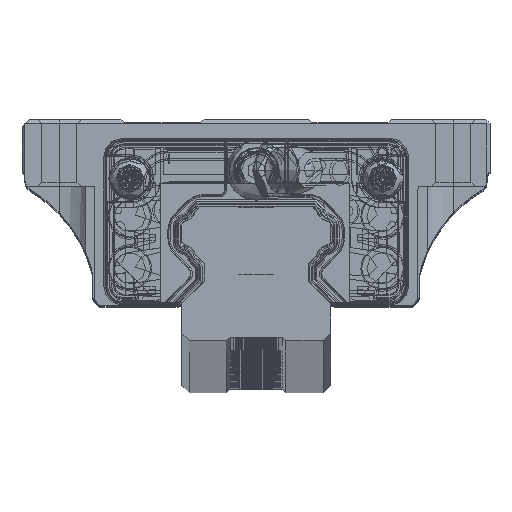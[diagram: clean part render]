
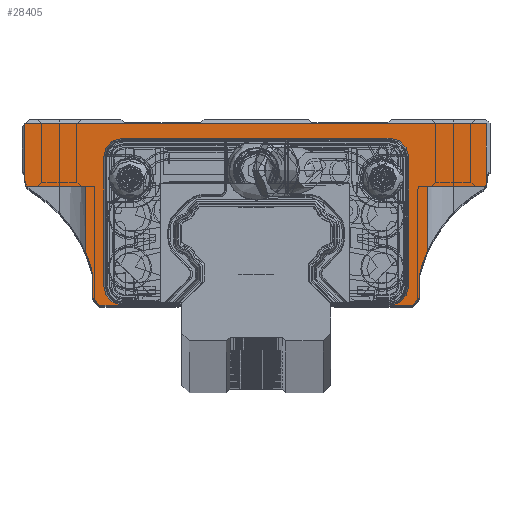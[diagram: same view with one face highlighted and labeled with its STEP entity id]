
A CAD part, top view. The second image highlights one B-rep face of the part: STEP entity #28405.
In plain terms, the highlighted planar face has unit normal (0, 0, 1).
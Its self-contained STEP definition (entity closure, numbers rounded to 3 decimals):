
#14114=DIRECTION('',(0.,-1.,0.));
#14115=VECTOR('',#14114,0.8);
#14116=CARTESIAN_POINT('',(-31.1,8.1,24.4));
#14117=LINE('',#14116,#14115);
#14134=CARTESIAN_POINT('',(18.,10.45,24.4));
#14135=DIRECTION('',(0.,0.,1.));
#14136=DIRECTION('',(1.,0.,0.));
#14137=AXIS2_PLACEMENT_3D('',#14134,#14135,#14136);
#14139=CARTESIAN_POINT('',(-18.,10.45,24.4));
#14140=DIRECTION('',(0.,0.,1.));
#14141=DIRECTION('',(0.,1.,0.));
#14142=AXIS2_PLACEMENT_3D('',#14139,#14140,#14141);
#14144=CARTESIAN_POINT('',(-18.,-7.,24.4));
#14145=DIRECTION('',(0.,0.,1.));
#14146=DIRECTION('',(-1.,0.,0.));
#14147=AXIS2_PLACEMENT_3D('',#14144,#14145,#14146);
#14149=DIRECTION('',(-1.,0.,0.));
#14150=VECTOR('',#14149,3.025);
#14151=CARTESIAN_POINT('',(-18.,-9.5,24.4));
#14152=LINE('',#14151,#14150);
#14153=DIRECTION('',(-0.707,0.707,0.));
#14154=VECTOR('',#14153,1.414);
#14155=CARTESIAN_POINT('',(-21.025,-9.5,24.4));
#14156=LINE('',#14155,#14154);
#14157=DIRECTION('',(0.,1.,0.));
#14158=VECTOR('',#14157,3.316);
#14159=CARTESIAN_POINT('',(-22.025,-8.5,24.4));
#14160=LINE('',#14159,#14158);
#14161=CARTESIAN_POINT('',(-39.5,-9.5,24.4));
#14162=DIRECTION('',(0.,0.,1.));
#14163=DIRECTION('',(0.971,0.24,0.));
#14164=AXIS2_PLACEMENT_3D('',#14161,#14162,#14163);
#14166=DIRECTION('',(0.,1.,0.));
#14167=VECTOR('',#14166,8.806);
#14168=CARTESIAN_POINT('',(-23.,-2.306,24.4));
#14169=LINE('',#14168,#14167);
#14170=DIRECTION('',(-1.,0.,0.));
#14171=VECTOR('',#14170,7.869);
#14172=CARTESIAN_POINT('',(-23.,6.5,24.4));
#14173=LINE('',#14172,#14171);
#14174=CARTESIAN_POINT('',(-29.6,7.3,24.4));
#14175=DIRECTION('',(0.,0.,-1.));
#14176=DIRECTION('',(-0.846,-0.533,0.));
#14177=AXIS2_PLACEMENT_3D('',#14174,#14175,#14176);
#14179=DIRECTION('',(-0.707,0.707,0.));
#14180=VECTOR('',#14179,0.141);
#14181=CARTESIAN_POINT('',(-31.1,8.1,24.4));
#14182=LINE('',#14181,#14180);
#14183=DIRECTION('',(0.,1.,0.));
#14184=VECTOR('',#14183,6.6);
#14185=CARTESIAN_POINT('',(-31.2,8.2,24.4));
#14186=LINE('',#14185,#14184);
#14187=DIRECTION('',(0.707,0.707,0.));
#14188=VECTOR('',#14187,0.141);
#14189=CARTESIAN_POINT('',(-31.2,14.8,24.4));
#14190=LINE('',#14189,#14188);
#14191=DIRECTION('',(1.,0.,0.));
#14192=VECTOR('',#14191,62.05);
#14193=CARTESIAN_POINT('',(-31.1,14.9,24.4));
#14194=LINE('',#14193,#14192);
#14195=DIRECTION('',(0.,-1.,0.));
#14196=VECTOR('',#14195,8.168);
#14197=CARTESIAN_POINT('',(30.95,14.9,24.4));
#14198=LINE('',#14197,#14196);
#14199=CARTESIAN_POINT('',(29.55,7.27,24.4));
#14200=DIRECTION('',(0.,0.,-1.));
#14201=DIRECTION('',(0.933,-0.359,0.));
#14202=AXIS2_PLACEMENT_3D('',#14199,#14200,#14201);
#14204=DIRECTION('',(-1.,0.,0.));
#14205=VECTOR('',#14204,7.837);
#14206=CARTESIAN_POINT('',(30.837,6.5,24.4));
#14207=LINE('',#14206,#14205);
#14208=DIRECTION('',(0.,-1.,0.));
#14209=VECTOR('',#14208,8.806);
#14210=CARTESIAN_POINT('',(23.,6.5,24.4));
#14211=LINE('',#14210,#14209);
#14212=CARTESIAN_POINT('',(39.5,-9.5,24.4));
#14213=DIRECTION('',(0.,0.,1.));
#14214=DIRECTION('',(-0.917,0.4,0.));
#14215=AXIS2_PLACEMENT_3D('',#14212,#14213,#14214);
#14217=DIRECTION('',(0.,-1.,0.));
#14218=VECTOR('',#14217,3.316);
#14219=CARTESIAN_POINT('',(22.025,-5.184,24.4));
#14220=LINE('',#14219,#14218);
#14221=DIRECTION('',(-0.707,-0.707,0.));
#14222=VECTOR('',#14221,1.414);
#14223=CARTESIAN_POINT('',(22.025,-8.5,24.4));
#14224=LINE('',#14223,#14222);
#14225=DIRECTION('',(-1.,0.,0.));
#14226=VECTOR('',#14225,3.025);
#14227=CARTESIAN_POINT('',(21.025,-9.5,24.4));
#14228=LINE('',#14227,#14226);
#14229=CARTESIAN_POINT('',(18.,-7.,24.4));
#14230=DIRECTION('',(0.,0.,1.));
#14231=DIRECTION('',(0.,-1.,0.));
#14232=AXIS2_PLACEMENT_3D('',#14229,#14230,#14231);
#14234=DIRECTION('',(0.,1.,0.));
#14235=VECTOR('',#14234,17.45);
#14236=CARTESIAN_POINT('',(20.5,-7.,24.4));
#14237=LINE('',#14236,#14235);
#14258=DIRECTION('',(1.,0.,0.));
#14259=VECTOR('',#14258,36.);
#14260=CARTESIAN_POINT('',(-18.,12.95,24.4));
#14261=LINE('',#14260,#14259);
#14270=DIRECTION('',(0.,1.,0.));
#14271=VECTOR('',#14270,17.45);
#14272=CARTESIAN_POINT('',(-20.5,-7.,24.4));
#14273=LINE('',#14272,#14271);
#23248=CARTESIAN_POINT('',(-21.025,-9.5,24.4));
#23249=VERTEX_POINT('',#23248);
#23250=CARTESIAN_POINT('',(-18.,-9.5,24.4));
#23251=VERTEX_POINT('',#23250);
#23254=CARTESIAN_POINT('',(-22.025,-8.5,24.4));
#23256=VERTEX_POINT('',#23254);
#23263=CARTESIAN_POINT('',(-22.025,-5.184,24.4));
#23265=VERTEX_POINT('',#23263);
#23268=CARTESIAN_POINT('',(-23.,-2.306,24.4));
#23269=VERTEX_POINT('',#23268);
#23301=CARTESIAN_POINT('',(-31.1,7.3,24.4));
#23302=VERTEX_POINT('',#23301);
#23303=CARTESIAN_POINT('',(-30.869,6.5,24.4));
#23304=VERTEX_POINT('',#23303);
#23305=CARTESIAN_POINT('',(-31.1,8.1,24.4));
#23306=VERTEX_POINT('',#23305);
#23308=CARTESIAN_POINT('',(-31.2,8.2,24.4));
#23310=VERTEX_POINT('',#23308);
#23313=CARTESIAN_POINT('',(-31.2,14.8,24.4));
#23314=VERTEX_POINT('',#23313);
#23317=CARTESIAN_POINT('',(20.5,10.45,24.4));
#23318=CARTESIAN_POINT('',(18.,12.95,24.4));
#23319=VERTEX_POINT('',#23317);
#23320=VERTEX_POINT('',#23318);
#23321=CARTESIAN_POINT('',(-18.,12.95,24.4));
#23322=VERTEX_POINT('',#23321);
#23323=CARTESIAN_POINT('',(-20.5,10.45,24.4));
#23324=VERTEX_POINT('',#23323);
#23325=CARTESIAN_POINT('',(-20.5,-7.,24.4));
#23326=VERTEX_POINT('',#23325);
#23327=CARTESIAN_POINT('',(-23.,6.5,24.4));
#23328=VERTEX_POINT('',#23327);
#23329=CARTESIAN_POINT('',(-31.1,14.9,24.4));
#23330=VERTEX_POINT('',#23329);
#23331=CARTESIAN_POINT('',(30.95,14.9,24.4));
#23332=VERTEX_POINT('',#23331);
#23333=CARTESIAN_POINT('',(30.95,6.732,24.4));
#23334=VERTEX_POINT('',#23333);
#23335=CARTESIAN_POINT('',(30.837,6.5,24.4));
#23336=VERTEX_POINT('',#23335);
#23337=CARTESIAN_POINT('',(23.,6.5,24.4));
#23338=VERTEX_POINT('',#23337);
#23339=CARTESIAN_POINT('',(23.,-2.306,24.4));
#23340=VERTEX_POINT('',#23339);
#23341=CARTESIAN_POINT('',(22.025,-5.184,24.4));
#23342=VERTEX_POINT('',#23341);
#23343=CARTESIAN_POINT('',(22.025,-8.5,24.4));
#23344=VERTEX_POINT('',#23343);
#23345=CARTESIAN_POINT('',(21.025,-9.5,24.4));
#23346=VERTEX_POINT('',#23345);
#23347=CARTESIAN_POINT('',(18.,-9.5,24.4));
#23348=VERTEX_POINT('',#23347);
#23349=CARTESIAN_POINT('',(20.5,-7.,24.4));
#23350=VERTEX_POINT('',#23349);
#28353=CARTESIAN_POINT('',(0.,0.,24.4));
#28354=DIRECTION('',(0.,0.,1.));
#28355=DIRECTION('',(1.,0.,0.));
#28356=AXIS2_PLACEMENT_3D('',#28353,#28354,#28355);
#28357=PLANE('',#28356);
#28359=ORIENTED_EDGE('',*,*,#28358,.T.);
#28361=ORIENTED_EDGE('',*,*,#28360,.F.);
#28363=ORIENTED_EDGE('',*,*,#28362,.T.);
#28365=ORIENTED_EDGE('',*,*,#28364,.F.);
#28367=ORIENTED_EDGE('',*,*,#28366,.T.);
#28368=ORIENTED_EDGE('',*,*,#28077,.T.);
#28369=ORIENTED_EDGE('',*,*,#28093,.T.);
#28370=ORIENTED_EDGE('',*,*,#28115,.T.);
#28371=ORIENTED_EDGE('',*,*,#28133,.T.);
#28373=ORIENTED_EDGE('',*,*,#28372,.T.);
#28375=ORIENTED_EDGE('',*,*,#28374,.T.);
#28376=ORIENTED_EDGE('',*,*,#28295,.T.);
#28377=ORIENTED_EDGE('',*,*,#28313,.F.);
#28378=ORIENTED_EDGE('',*,*,#28327,.T.);
#28379=ORIENTED_EDGE('',*,*,#28343,.T.);
#28381=ORIENTED_EDGE('',*,*,#28380,.T.);
#28383=ORIENTED_EDGE('',*,*,#28382,.T.);
#28385=ORIENTED_EDGE('',*,*,#28384,.T.);
#28387=ORIENTED_EDGE('',*,*,#28386,.T.);
#28389=ORIENTED_EDGE('',*,*,#28388,.T.);
#28391=ORIENTED_EDGE('',*,*,#28390,.T.);
#28393=ORIENTED_EDGE('',*,*,#28392,.T.);
#28395=ORIENTED_EDGE('',*,*,#28394,.T.);
#28397=ORIENTED_EDGE('',*,*,#28396,.T.);
#28398=ORIENTED_EDGE('',*,*,#27927,.T.);
#28400=ORIENTED_EDGE('',*,*,#28399,.T.);
#28402=ORIENTED_EDGE('',*,*,#28401,.T.);
#28403=EDGE_LOOP('',(#28359,#28361,#28363,#28365,#28367,#28368,#28369,#28370,
#28371,#28373,#28375,#28376,#28377,#28378,#28379,#28381,#28383,#28385,#28387,
#28389,#28391,#28393,#28395,#28397,#28398,#28400,#28402));
#28404=FACE_OUTER_BOUND('',#28403,.F.);
#14138=CIRCLE('',#14137,2.5);
#14143=CIRCLE('',#14142,2.5);
#14148=CIRCLE('',#14147,2.5);
#14165=CIRCLE('',#14164,18.);
#14178=CIRCLE('',#14177,1.5);
#14203=CIRCLE('',#14202,1.5);
#14216=CIRCLE('',#14215,18.);
#14233=CIRCLE('',#14232,2.5);
#27927=EDGE_CURVE('',#23346,#23348,#14228,.T.);
#28077=EDGE_CURVE('',#23251,#23249,#14152,.T.);
#28093=EDGE_CURVE('',#23249,#23256,#14156,.T.);
#28115=EDGE_CURVE('',#23256,#23265,#14160,.T.);
#28133=EDGE_CURVE('',#23265,#23269,#14165,.T.);
#28295=EDGE_CURVE('',#23304,#23302,#14178,.T.);
#28313=EDGE_CURVE('',#23306,#23302,#14117,.T.);
#28327=EDGE_CURVE('',#23306,#23310,#14182,.T.);
#28343=EDGE_CURVE('',#23310,#23314,#14186,.T.);
#28358=EDGE_CURVE('',#23319,#23320,#14138,.T.);
#28360=EDGE_CURVE('',#23322,#23320,#14261,.T.);
#28362=EDGE_CURVE('',#23322,#23324,#14143,.T.);
#28364=EDGE_CURVE('',#23326,#23324,#14273,.T.);
#28366=EDGE_CURVE('',#23326,#23251,#14148,.T.);
#28372=EDGE_CURVE('',#23269,#23328,#14169,.T.);
#28374=EDGE_CURVE('',#23328,#23304,#14173,.T.);
#28380=EDGE_CURVE('',#23314,#23330,#14190,.T.);
#28382=EDGE_CURVE('',#23330,#23332,#14194,.T.);
#28384=EDGE_CURVE('',#23332,#23334,#14198,.T.);
#28386=EDGE_CURVE('',#23334,#23336,#14203,.T.);
#28388=EDGE_CURVE('',#23336,#23338,#14207,.T.);
#28390=EDGE_CURVE('',#23338,#23340,#14211,.T.);
#28392=EDGE_CURVE('',#23340,#23342,#14216,.T.);
#28394=EDGE_CURVE('',#23342,#23344,#14220,.T.);
#28396=EDGE_CURVE('',#23344,#23346,#14224,.T.);
#28399=EDGE_CURVE('',#23348,#23350,#14233,.T.);
#28401=EDGE_CURVE('',#23350,#23319,#14237,.T.);
#28405=ADVANCED_FACE('',(#28404),#28357,.T.);
